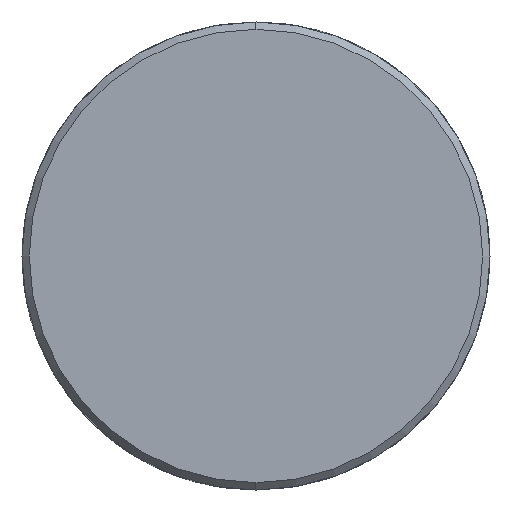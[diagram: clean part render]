
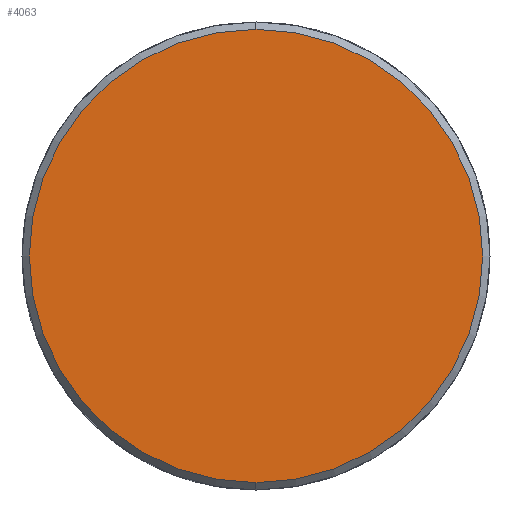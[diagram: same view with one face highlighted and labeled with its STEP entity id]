
A CAD part, left-side view. The second image highlights one B-rep face of the part: STEP entity #4063.
In plain terms, the highlighted planar face has unit normal (-1, 0, 0).
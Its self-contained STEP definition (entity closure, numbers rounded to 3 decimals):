
#1675 = CARTESIAN_POINT ( 'NONE',  ( 0., 0., -15.5 ) ) ;
#1738 = DIRECTION ( 'NONE',  ( 0., 0., -1. ) ) ;
#1747 = DIRECTION ( 'NONE',  ( 1., 0., 0. ) ) ;
#1750 = CARTESIAN_POINT ( 'NONE',  ( 0., 0., 0. ) ) ;
#1782 = EDGE_CURVE ( 'NONE', #2054, #5983, #3482, .T. ) ;
#1857 = DIRECTION ( 'NONE',  ( 0., 0., -1. ) ) ;
#1863 = DIRECTION ( 'NONE',  ( 1., 0., 0. ) ) ;
#1872 = CARTESIAN_POINT ( 'NONE',  ( 0., 0., 0. ) ) ;
#1877 = EDGE_CURVE ( 'NONE', #5983, #2054, #2729, .T. ) ;
#1988 = EDGE_LOOP ( 'NONE', ( #4957, #6952 ) ) ;
#2054 = VERTEX_POINT ( 'NONE', #1675 ) ;
#2452 = DIRECTION ( 'NONE',  ( -1., 0., 0. ) ) ;
#2729 = CIRCLE ( 'NONE', #3431, 15.5 ) ;
#3014 = PLANE ( 'NONE',  #6949 ) ;
#3431 = AXIS2_PLACEMENT_3D ( 'NONE', #1750, #1747, #1738 ) ;
#3482 = CIRCLE ( 'NONE', #4809, 15.5 ) ;
#4063 = ADVANCED_FACE ( 'NONE', ( #5239 ), #3014, .T. ) ;
#4809 = AXIS2_PLACEMENT_3D ( 'NONE', #1872, #1863, #1857 ) ;
#4957 = ORIENTED_EDGE ( 'NONE', *, *, #1782, .F. ) ;
#4968 = CARTESIAN_POINT ( 'NONE',  ( 0., 0., 15.5 ) ) ;
#5239 = FACE_OUTER_BOUND ( 'NONE', #1988, .T. ) ;
#5983 = VERTEX_POINT ( 'NONE', #4968 ) ;
#5999 = CARTESIAN_POINT ( 'NONE',  ( 0., 0., 0. ) ) ;
#6565 = DIRECTION ( 'NONE',  ( 0., 0., 1. ) ) ;
#6949 = AXIS2_PLACEMENT_3D ( 'NONE', #5999, #2452, #6565 ) ;
#6952 = ORIENTED_EDGE ( 'NONE', *, *, #1877, .F. ) ;
